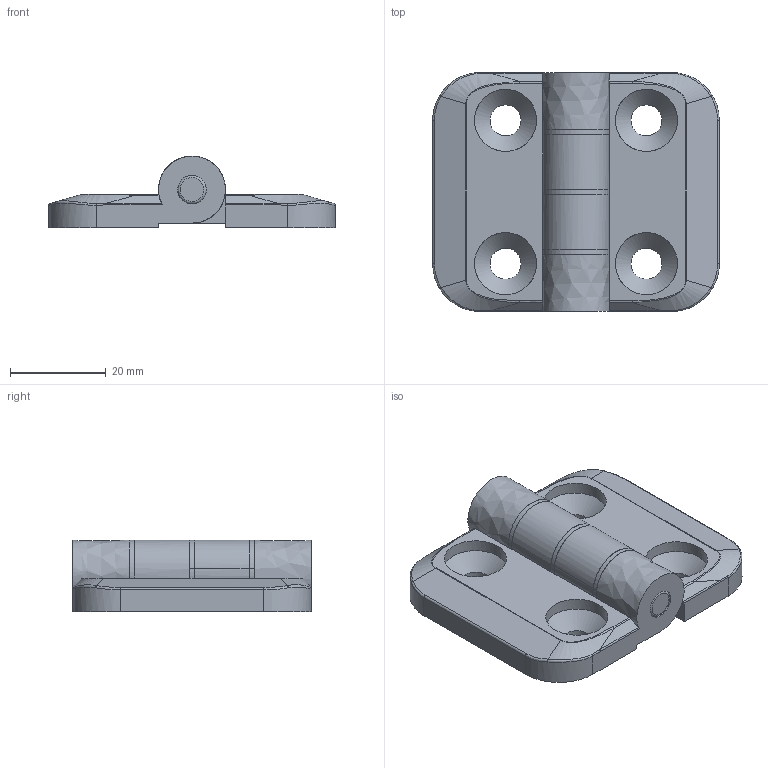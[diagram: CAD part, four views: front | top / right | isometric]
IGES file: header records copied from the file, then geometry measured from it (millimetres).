
Global section: file name: DR_HP5060; native system: Autodesk Inventor 2015; preprocessor: unknown; author: CHANNEL&J; date: 20170810.090706; units: millimetre
Bounding box: 60 x 50 x 15 mm (x, y, z)
Volume: 20441.3 mm3; surface area: 12044.3 mm2
Topology: 3 solids, 3 shells, 101 faces, 259 edges, 168 vertices
Faces by surface type: bspline 101
